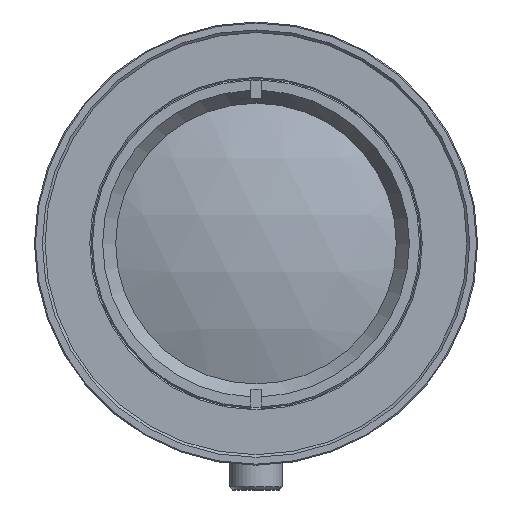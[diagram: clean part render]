
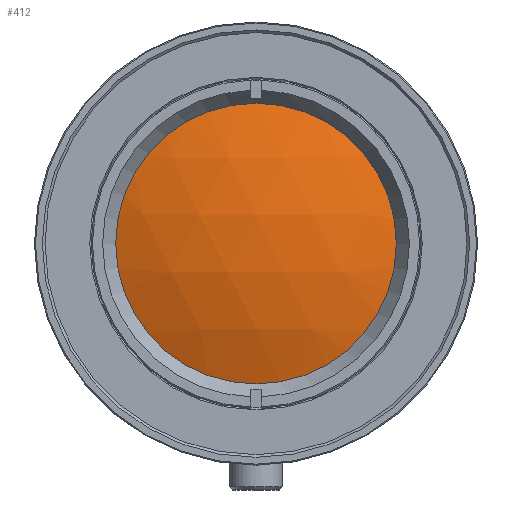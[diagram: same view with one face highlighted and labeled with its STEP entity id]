
A CAD part, front view. The second image highlights one B-rep face of the part: STEP entity #412.
In plain terms, the highlighted spherical face has radius 36.3 mm.
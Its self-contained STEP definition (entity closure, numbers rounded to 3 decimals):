
#412 = ADVANCED_FACE( 'NONE', ( #1064 ), #1065, .T. );
#1064 = FACE_OUTER_BOUND( '', #2056, .T. );
#1065 = SPHERICAL_SURFACE( '', #2057, 36.3 );
#2056 = EDGE_LOOP( '', ( #3284 ) );
#2057 = AXIS2_PLACEMENT_3D( '', #3285, #3286, #3287 );
#3284 = ORIENTED_EDGE( '', *, *, #5336, .T. );
#3285 = CARTESIAN_POINT( '', ( 0., -16.576, 0. ) );
#3286 = DIRECTION( '', ( 0., 0., 1. ) );
#3287 = DIRECTION( '', ( -0.372, -0.928, 0. ) );
#5336 = EDGE_CURVE( 'NONE', #6348, #6348, #6349, .T. );
#6348 = VERTEX_POINT( '', #7875 );
#6349 = CIRCLE( '', #7876, 13.3 );
#7875 = CARTESIAN_POINT( '', ( 13.3, -50.352, 0. ) );
#7876 = AXIS2_PLACEMENT_3D( '', #9882, #9883, #9884 );
#9882 = CARTESIAN_POINT( '', ( 0., -50.352, 0. ) );
#9883 = DIRECTION( '', ( 0., -1., 0. ) );
#9884 = DIRECTION( '', ( 1., 0., 0. ) );
